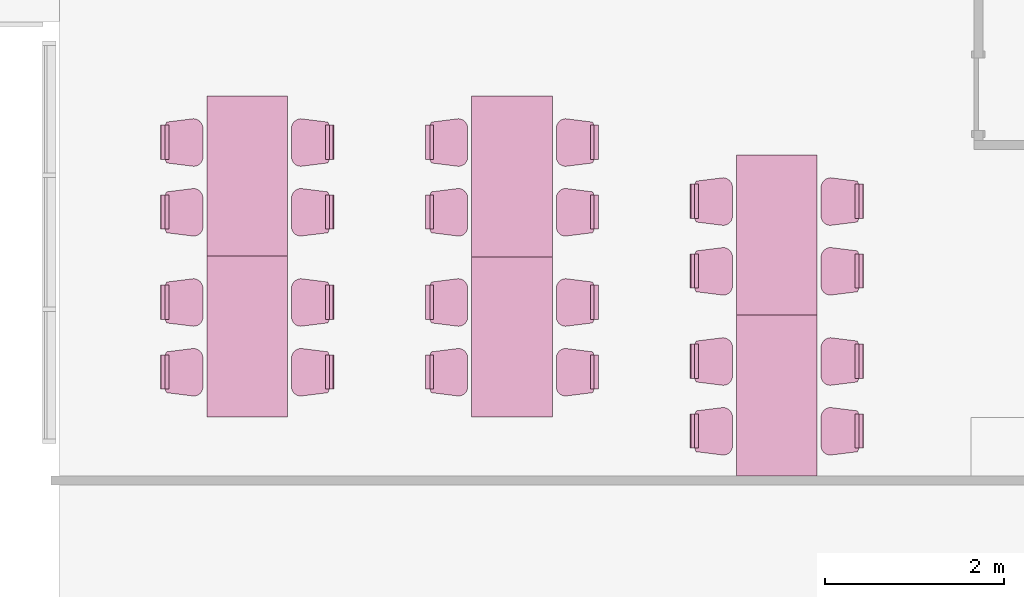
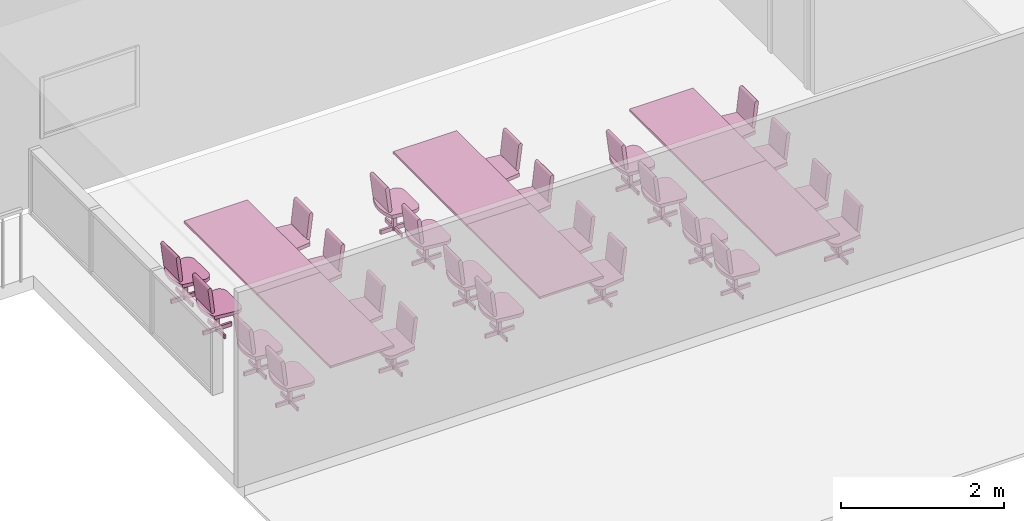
# One storey, part 6 of 6: 30 furnishings.
"""IFC2X3 building model written with IfcOpenShell, lengths in millimetres."""

from ifc_helpers import new_model, entity, si_unit, converted_unit, derived_unit, direction, frame, frame_2d, origin, origin_2d_with_axis, place, context, subcontext, project, spatial, polyline, circle_curve, parameter, trimmed, segment, composite_curve, rectangle, outline, extrude, source, transform, mapped, material, material_list, type_object, type_shapes, element, save


model = new_model("IFC2X3")

# Units and contexts
model_context = context("Model", 3, precision=0.01, world=origin(), true_north=direction((4.05803320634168e-15, -1.0)))
body_context = subcontext(model_context, "Body", "Model", "MODEL_VIEW")
ifc_project = project(units=[si_unit("LENGTHUNIT", "METRE", prefix="MILLI"), si_unit("AREAUNIT", "SQUARE_METRE"), si_unit("VOLUMEUNIT", "CUBIC_METRE"), converted_unit("PLANEANGLEUNIT", "DEGREE", entity("IfcRatioMeasure", 0.0174532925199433), si_unit("PLANEANGLEUNIT", "RADIAN"), dimensions=[0, 0, 0, 0, 0, 0, 0]), si_unit("MASSUNIT", "GRAM", prefix="KILO"), derived_unit("MASSDENSITYUNIT", [(si_unit("MASSUNIT", "GRAM", prefix="KILO"), 1), (si_unit("LENGTHUNIT", "METRE"), -3)]), si_unit("TIMEUNIT", "SECOND"), si_unit("FREQUENCYUNIT", "HERTZ"), si_unit("THERMODYNAMICTEMPERATUREUNIT", "DEGREE_CELSIUS"), derived_unit("THERMALTRANSMITTANCEUNIT", [(si_unit("MASSUNIT", "GRAM", prefix="KILO"), 1), (si_unit("THERMODYNAMICTEMPERATUREUNIT", "KELVIN"), -1), (si_unit("TIMEUNIT", "SECOND"), -3)]), derived_unit("VOLUMETRICFLOWRATEUNIT", [(si_unit("LENGTHUNIT", "METRE"), 3), (si_unit("TIMEUNIT", "SECOND"), -1)]), si_unit("ELECTRICCURRENTUNIT", "AMPERE"), si_unit("ELECTRICVOLTAGEUNIT", "VOLT"), si_unit("POWERUNIT", "WATT"), si_unit("FORCEUNIT", "NEWTON", prefix="KILO"), si_unit("ILLUMINANCEUNIT", "LUX"), si_unit("LUMINOUSFLUXUNIT", "LUMEN"), si_unit("LUMINOUSINTENSITYUNIT", "CANDELA"), derived_unit("USERDEFINED", [(si_unit("MASSUNIT", "GRAM", prefix="KILO"), -1), (si_unit("LENGTHUNIT", "METRE"), -2), (si_unit("TIMEUNIT", "SECOND"), 3), (si_unit("LUMINOUSFLUXUNIT", "LUMEN"), 1)]), derived_unit("LINEARVELOCITYUNIT", [(si_unit("LENGTHUNIT", "METRE"), 1), (si_unit("TIMEUNIT", "SECOND"), -1)]), si_unit("PRESSUREUNIT", "PASCAL"), derived_unit("USERDEFINED", [(si_unit("LENGTHUNIT", "METRE"), -2), (si_unit("MASSUNIT", "GRAM", prefix="KILO"), 1), (si_unit("TIMEUNIT", "SECOND"), -2)])], contexts=[model_context])

# Site, building, storey
site_placement = place(None, frame((927466.849349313, 583801.882853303, 0.0), z_axis=(0.0, 0.0, 1.0), x_axis=(-1.0, 0.0, 0.0)))
site = spatial("IfcSite", under=ifc_project, at=site_placement, Name="Surface", CompositionType="ELEMENT")
building_placement = place(site_placement, origin())
building = spatial("IfcBuilding", under=site, at=building_placement, CompositionType="ELEMENT")
storey_placement = place(building_placement, frame((0.0, 0.0, 51027.1066036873)))
storey = spatial("IfcBuildingStorey", under=building, at=storey_placement, Name="2nd floor", CompositionType="ELEMENT", Elevation=51027.1066036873)

# Furnishings
ifc_material_1 = material(Name="Paint - White")
furniture_type_1 = type_object("IfcFurnitureType", Name="Desk 900x1800", AssemblyPlace="NOTDEFINED", material=ifc_material_1)
shared_shape_1 = source(origin(), body_context, "Body", "SweptSolid", [
    extrude(rectangle(XDim=1800.0, YDim=900.0, at=origin_2d_with_axis()), frame((0.0, 450.0, 718.0)), (0.0, 0.0, 1.0), 32.0),
])
type_shapes(furniture_type_1, [shared_shape_1])
for number, where, z_axis, x_axis, name in (
    (1, (-89366.0817686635, 17471.2743332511, 0.0), (0.0, 0.0, 1.0), (0.0, -1.0, 0.0), "Desk 900x1800:Desk 900x1800"),
    (2, (-89366.0817686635, 15683.2807638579, 0.0), (0.0, 0.0, 1.0), (0.0, -1.0, 0.0), "Desk 900x1800:Desk 900x1800"),
    (3, (-86406.0817686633, 16811.2743332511, 0.0), (0.0, 0.0, 1.0), (0.0, -1.0, 0.0), "Desk 900x1800:Desk 900x1800"),
    (4, (-86406.0817686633, 15023.2807638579, 0.0), (0.0, 0.0, 1.0), (0.0, -1.0, 0.0), "Desk 900x1800:Desk 900x1800"),
    (5, (-83446.0817686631, 16811.2743332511, 0.0), (0.0, 0.0, 1.0), (0.0, -1.0, 0.0), "Desk 900x1800:Desk 900x1800"),
    (6, (-83446.0817686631, 15023.2807638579, 0.0), (0.0, 0.0, 1.0), (0.0, -1.0, 0.0), "Desk 900x1800:Desk 900x1800"),
):
    element("IfcFurnishingElement", number, at=place(storey_placement, frame(where, z_axis=z_axis, x_axis=x_axis)), inside=storey, type_object=furniture_type_1, material=ifc_material_1, Name=name, ObjectType="Desk 900x1800", context=body_context, shape_type="MappedRepresentation", body=[
        mapped(shared_shape_1, transform((0.0, 0.0, 0.0), scale=1.0)),
    ])
ifc_material_2 = material(Name="Metal - Chrome")
ifc_material_3 = material(Name="Textile - Slate Blue")
ifc_material_list_1 = material_list([ifc_material_2, ifc_material_3])
ifc_material_list_2 = material_list([ifc_material_2, ifc_material_3])
furniture_type_2 = type_object("IfcFurnitureType", Name="Desk Chair", AssemblyPlace="NOTDEFINED", material=ifc_material_list_2)
shared_shape_2 = source(origin(), body_context, "Body", "SweptSolid", [
    extrude(rectangle(XDim=30.4799999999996, YDim=186.06811500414, at=origin_2d_with_axis()), frame((-0.923636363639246, 281.917693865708, 0.0)), (0.0, 0.0, 1.0), 58.5040426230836),
    extrude(rectangle(XDim=30.4799999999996, YDim=169.487272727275, at=origin_2d_with_axis()), frame((-0.923636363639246, 51.4927272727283, 0.0), z_axis=(0.0, 0.0, 1.0), x_axis=(-1.0, 0.0, 0.0)), (0.0, 0.0, 1.0), 58.5040426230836),
    extrude(rectangle(XDim=24.9827940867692, YDim=177.8, at=origin_2d_with_axis()), frame((-114.761818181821, 162.537693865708, 0.0), z_axis=(0.0, 0.0, 1.0), x_axis=(0.0, -1.0, 0.0)), (0.0, 0.0, 1.0), 58.5040426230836),
    extrude(rectangle(XDim=177.338181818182, YDim=22.629090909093, at=origin_2d_with_axis()), frame((115.454545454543, 163.714545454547, 0.0), z_axis=(0.0, 0.0, 1.0), x_axis=(-1.0, 0.0, 0.0)), (0.0, 0.0, 1.0), 58.5040426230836),
    extrude(rectangle(XDim=50.7999999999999, YDim=50.8, at=frame_2d((0.0, 1.77635683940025e-14), x_axis=(1.0, 0.0))), frame((0.923636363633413, 164.869090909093, 0.0), z_axis=(0.0, 0.0, 1.0), x_axis=(-1.0, 0.0, 0.0)), (0.0, 0.0, 1.0), 355.6),
    extrude(outline(composite_curve([segment(trimmed(circle_curve(frame_2d((-20.2484072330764, 168.005962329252), x_axis=(1.0, 0.0)), 26.7884929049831), [parameter(359.999999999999)], [parameter(179.999999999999)], True, "PARAMETER"), True, "CONTINUOUS"), segment(polyline([(-47.0369001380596, 168.005962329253), (-5.22778910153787, -168.005962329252)]), True, "CONTINUOUS"), segment(trimmed(circle_curve(frame_2d((20.2484072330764, -168.005962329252), x_axis=(1.0, 0.0)), 25.4761963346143), [parameter(180.0)], [parameter(359.999999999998)], True, "PARAMETER"), True, "CONTINUOUS"), segment(polyline([(45.7246035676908, -168.005962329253), (6.54008567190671, 168.005962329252)]), True, "CONTINUOUS")], self_intersect=False)), frame((-194.36430563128, -20.1722108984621, 619.394037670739), z_axis=(1.0, 0.0, 0.0), x_axis=(0.0, 1.0, 0.0)), (0.0, 0.0, 1.0), 383.27680563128),
    extrude(outline(composite_curve([segment(polyline([(-98.8964113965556, -257.738474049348), (205.903588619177, -257.738474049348)]), True, "CONTINUOUS"), segment(trimmed(circle_curve(frame_2d((-209.185203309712, 24.5266400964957), x_axis=(0.124034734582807, 0.992277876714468)), 501.968425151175), [parameter(242.908867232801)], [parameter(297.091132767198)], True, "PARAMETER"), True, "CONTINUOUS"), segment(polyline([(262.612269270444, 195.930971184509), (-32.8339614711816, 270.761125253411)]), True, "CONTINUOUS"), segment(trimmed(circle_curve(frame_2d((-45.7278314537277, 167.610165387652), x_axis=(0.124034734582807, 0.992277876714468)), 103.953703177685), [parameter(359.999999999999)], [parameter(89.9999999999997)], True, "PARAMETER"), True, "CONTINUOUS"), segment(polyline([(-148.878791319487, 180.504035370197), (-187.906693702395, -131.719183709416)]), True, "CONTINUOUS"), segment(trimmed(circle_curve(frame_2d((-80.0405815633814, -149.975538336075), x_axis=(0.124034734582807, 0.992277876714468)), 109.400149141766), [parameter(87.5187332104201)], [parameter(177.200155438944)], True, "PARAMETER"), True, "CONTINUOUS")], self_intersect=False)), frame((1.6089888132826, 236.282098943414, 355.6), z_axis=(0.0, 0.0, 1.0), x_axis=(0.124034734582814, -0.992277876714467, 0.0)), (0.0, 0.0, 1.0), 50.8000000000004),
])
type_shapes(furniture_type_2, [shared_shape_2])
furnishing_1_placement = place(storey_placement, frame((-88014.881742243, 17871.2743332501, 0.0), z_axis=(0.0, 0.0, 1.0), x_axis=(0.0, 1.0, 0.0)))
element("IfcFurnishingElement", 7, at=furnishing_1_placement, inside=storey, type_object=furniture_type_2, material=ifc_material_list_1, Name="M_Chair-Desk:Desk Chair", ObjectType="Desk Chair", context=body_context, shape_type="MappedRepresentation", body=[
    mapped(shared_shape_2, transform((0.0, 0.0, 0.0), scale=1.0)),
])
ifc_material_list_3 = material_list([ifc_material_2, ifc_material_3])
furnishing_2_placement = place(storey_placement, frame((-88014.8817422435, 17091.2743332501, 0.0), z_axis=(0.0, 0.0, 1.0), x_axis=(0.0, 1.0, 0.0)))
element("IfcFurnishingElement", 8, at=furnishing_2_placement, inside=storey, type_object=furniture_type_2, material=ifc_material_list_3, Name="M_Chair-Desk:Desk Chair", ObjectType="Desk Chair", context=body_context, shape_type="MappedRepresentation", body=[
    mapped(shared_shape_2, transform((0.0, 0.0, 0.0), scale=1.0)),
])
ifc_material_list_4 = material_list([ifc_material_2, ifc_material_3])
furnishing_3_placement = place(storey_placement, frame((-88014.881742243, 16083.2807638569, 0.0), z_axis=(0.0, 0.0, 1.0), x_axis=(0.0, 1.0, 0.0)))
element("IfcFurnishingElement", 9, at=furnishing_3_placement, inside=storey, type_object=furniture_type_2, material=ifc_material_list_4, Name="M_Chair-Desk:Desk Chair", ObjectType="Desk Chair", context=body_context, shape_type="MappedRepresentation", body=[
    mapped(shared_shape_2, transform((0.0, 0.0, 0.0), scale=1.0)),
])
ifc_material_list_5 = material_list([ifc_material_2, ifc_material_3])
furnishing_4_placement = place(storey_placement, frame((-88014.8817422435, 15303.2807638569, 0.0), z_axis=(0.0, 0.0, 1.0), x_axis=(0.0, 1.0, 0.0)))
element("IfcFurnishingElement", 10, at=furnishing_4_placement, inside=storey, type_object=furniture_type_2, material=ifc_material_list_5, Name="M_Chair-Desk:Desk Chair", ObjectType="Desk Chair", context=body_context, shape_type="MappedRepresentation", body=[
    mapped(shared_shape_2, transform((0.0, 0.0, 0.0), scale=1.0)),
])
ifc_material_list_6 = material_list([ifc_material_2, ifc_material_3])
furnishing_5_placement = place(storey_placement, frame((-85054.8817422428, 17211.2743332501, 0.0), z_axis=(0.0, 0.0, 1.0), x_axis=(0.0, 1.0, 0.0)))
element("IfcFurnishingElement", 11, at=furnishing_5_placement, inside=storey, type_object=furniture_type_2, material=ifc_material_list_6, Name="M_Chair-Desk:Desk Chair", ObjectType="Desk Chair", context=body_context, shape_type="MappedRepresentation", body=[
    mapped(shared_shape_2, transform((0.0, 0.0, 0.0), scale=1.0)),
])
ifc_material_list_7 = material_list([ifc_material_2, ifc_material_3])
furnishing_6_placement = place(storey_placement, frame((-85054.8817422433, 16431.2743332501, 0.0), z_axis=(0.0, 0.0, 1.0), x_axis=(0.0, 1.0, 0.0)))
element("IfcFurnishingElement", 12, at=furnishing_6_placement, inside=storey, type_object=furniture_type_2, material=ifc_material_list_7, Name="M_Chair-Desk:Desk Chair", ObjectType="Desk Chair", context=body_context, shape_type="MappedRepresentation", body=[
    mapped(shared_shape_2, transform((0.0, 0.0, 0.0), scale=1.0)),
])
ifc_material_list_8 = material_list([ifc_material_2, ifc_material_3])
furnishing_7_placement = place(storey_placement, frame((-85054.8817422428, 15423.2807638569, 0.0), z_axis=(0.0, 0.0, 1.0), x_axis=(0.0, 1.0, 0.0)))
element("IfcFurnishingElement", 13, at=furnishing_7_placement, inside=storey, type_object=furniture_type_2, material=ifc_material_list_8, Name="M_Chair-Desk:Desk Chair", ObjectType="Desk Chair", context=body_context, shape_type="MappedRepresentation", body=[
    mapped(shared_shape_2, transform((0.0, 0.0, 0.0), scale=1.0)),
])
ifc_material_list_9 = material_list([ifc_material_2, ifc_material_3])
furnishing_8_placement = place(storey_placement, frame((-85054.8817422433, 14643.2807638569, 0.0), z_axis=(0.0, 0.0, 1.0), x_axis=(0.0, 1.0, 0.0)))
element("IfcFurnishingElement", 14, at=furnishing_8_placement, inside=storey, type_object=furniture_type_2, material=ifc_material_list_9, Name="M_Chair-Desk:Desk Chair", ObjectType="Desk Chair", context=body_context, shape_type="MappedRepresentation", body=[
    mapped(shared_shape_2, transform((0.0, 0.0, 0.0), scale=1.0)),
])
ifc_material_list_10 = material_list([ifc_material_2, ifc_material_3])
furnishing_9_placement = place(storey_placement, frame((-82094.8817422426, 17211.2743332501, 0.0), z_axis=(0.0, 0.0, 1.0), x_axis=(0.0, 1.0, 0.0)))
element("IfcFurnishingElement", 15, at=furnishing_9_placement, inside=storey, type_object=furniture_type_2, material=ifc_material_list_10, Name="M_Chair-Desk:Desk Chair", ObjectType="Desk Chair", context=body_context, shape_type="MappedRepresentation", body=[
    mapped(shared_shape_2, transform((0.0, 0.0, 0.0), scale=1.0)),
])
ifc_material_list_11 = material_list([ifc_material_2, ifc_material_3])
furnishing_10_placement = place(storey_placement, frame((-82094.8817422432, 16431.2743332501, 0.0), z_axis=(0.0, 0.0, 1.0), x_axis=(0.0, 1.0, 0.0)))
element("IfcFurnishingElement", 16, at=furnishing_10_placement, inside=storey, type_object=furniture_type_2, material=ifc_material_list_11, Name="M_Chair-Desk:Desk Chair", ObjectType="Desk Chair", context=body_context, shape_type="MappedRepresentation", body=[
    mapped(shared_shape_2, transform((0.0, 0.0, 0.0), scale=1.0)),
])
ifc_material_list_12 = material_list([ifc_material_2, ifc_material_3])
furnishing_11_placement = place(storey_placement, frame((-82094.8817422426, 15423.2807638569, 0.0), z_axis=(0.0, 0.0, 1.0), x_axis=(0.0, 1.0, 0.0)))
element("IfcFurnishingElement", 17, at=furnishing_11_placement, inside=storey, type_object=furniture_type_2, material=ifc_material_list_12, Name="M_Chair-Desk:Desk Chair", ObjectType="Desk Chair", context=body_context, shape_type="MappedRepresentation", body=[
    mapped(shared_shape_2, transform((0.0, 0.0, 0.0), scale=1.0)),
])
ifc_material_list_13 = material_list([ifc_material_2, ifc_material_3])
furnishing_12_placement = place(storey_placement, frame((-82094.8817422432, 14643.2807638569, 0.0), z_axis=(0.0, 0.0, 1.0), x_axis=(0.0, 1.0, 0.0)))
element("IfcFurnishingElement", 18, at=furnishing_12_placement, inside=storey, type_object=furniture_type_2, material=ifc_material_list_13, Name="M_Chair-Desk:Desk Chair", ObjectType="Desk Chair", context=body_context, shape_type="MappedRepresentation", body=[
    mapped(shared_shape_2, transform((0.0, 0.0, 0.0), scale=1.0)),
])
ifc_material_list_14 = material_list([ifc_material_2, ifc_material_3])
ifc_material_list_15 = material_list([ifc_material_2, ifc_material_3])
furniture_type_3 = type_object("IfcFurnitureType", Name="Desk Chair", AssemblyPlace="NOTDEFINED", material=ifc_material_list_15)
shared_shape_3 = source(origin(), body_context, "Body", "SweptSolid", [
    extrude(rectangle(XDim=186.06811500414, YDim=30.4799999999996, at=origin_2d_with_axis()), frame((-0.923636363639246, -281.917693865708, 0.0), z_axis=(0.0, 0.0, 1.0), x_axis=(0.0, -1.0, 0.0)), (0.0, 0.0, 1.0), 58.5040426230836),
    extrude(rectangle(XDim=169.487272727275, YDim=30.4799999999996, at=origin_2d_with_axis()), frame((-0.923636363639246, -51.4927272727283, 0.0), z_axis=(0.0, 0.0, 1.0), x_axis=(0.0, 1.0, 0.0)), (0.0, 0.0, 1.0), 58.5040426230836),
    extrude(rectangle(XDim=177.8, YDim=24.9827940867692, at=origin_2d_with_axis()), frame((-114.761818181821, -162.537693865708, 0.0)), (0.0, 0.0, 1.0), 58.5040426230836),
    extrude(rectangle(XDim=22.629090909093, YDim=177.338181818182, at=origin_2d_with_axis()), frame((115.454545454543, -163.714545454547, 0.0), z_axis=(0.0, 0.0, 1.0), x_axis=(0.0, 1.0, 0.0)), (0.0, 0.0, 1.0), 58.5040426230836),
    extrude(rectangle(XDim=50.8, YDim=50.7999999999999, at=frame_2d((1.77635683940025e-14, 0.0), x_axis=(1.0, 0.0))), frame((0.923636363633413, -164.869090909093, 0.0), z_axis=(0.0, 0.0, 1.0), x_axis=(0.0, 1.0, 0.0)), (0.0, 0.0, 1.0), 355.6),
    extrude(outline(composite_curve([segment(polyline([(-166.117545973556, -25.956444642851), (172.171442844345, -25.956444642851)]), True, "CONTINUOUS"), segment(trimmed(circle_curve(frame_2d((169.220497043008, -0.65173167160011), x_axis=(0.115831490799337, -0.993268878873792)), 25.4761963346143), [parameter(1.67933287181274e-12)], [parameter(180.0)], True, "PARAMETER"), True, "CONTINUOUS"), segment(polyline([(166.269551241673, 24.6529812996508), (-172.323448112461, 27.2599079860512)]), True, "CONTINUOUS"), segment(trimmed(circle_curve(frame_2d((-169.220497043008, 0.651731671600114), x_axis=(0.115831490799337, -0.993268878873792)), 26.7884929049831), [parameter(180.000000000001)], [parameter(5.5977762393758e-13)], True, "PARAMETER"), True, "CONTINUOUS")], self_intersect=False)), frame((-194.36430563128, 20.1722108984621, 619.394037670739), z_axis=(1.0, 0.0, 0.0), x_axis=(0.0, -0.115831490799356, -0.993268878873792)), (0.0, 0.0, 1.0), 383.27680563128),
    extrude(outline(composite_curve([segment(trimmed(circle_curve(frame_2d((-158.745221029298, -60.8203222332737), x_axis=(1.0, 0.0)), 109.400149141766), [parameter(182.799844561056)], [parameter(272.48126678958)], True, "PARAMETER"), True, "CONTINUOUS"), segment(polyline([(-154.008988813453, -170.117901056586), (160.644019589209, -170.117901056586)]), True, "CONTINUOUS"), segment(trimmed(circle_curve(frame_2d((160.644019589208, -66.164197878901), x_axis=(1.0, 0.0)), 103.953703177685), [parameter(270.0)], [parameter(1.06866637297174e-12)], True, "PARAMETER"), True, "CONTINUOUS"), segment(polyline([(264.597722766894, -66.1641978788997), (226.991011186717, 236.28209894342)]), True, "CONTINUOUS"), segment(trimmed(circle_curve(frame_2d((-1.6089888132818, -210.612004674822), x_axis=(1.0, 0.0)), 501.968425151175), [parameter(62.9088672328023)], [parameter(117.091132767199)], True, "PARAMETER"), True, "CONTINUOUS"), segment(polyline([(-230.208988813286, 236.282098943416), (-268.014775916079, -66.1641978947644)]), True, "CONTINUOUS")], self_intersect=False)), frame((1.60898881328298, -236.282098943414, 355.6)), (0.0, 0.0, 1.0), 50.8000000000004),
])
type_shapes(furniture_type_3, [shared_shape_3])
furnishing_13_placement = place(storey_placement, frame((-89817.2817950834, 17871.2743332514, 0.0), z_axis=(0.0, 0.0, 1.0), x_axis=(0.0, 1.0, 0.0)))
element("IfcFurnishingElement", 19, at=furnishing_13_placement, inside=storey, type_object=furniture_type_3, material=ifc_material_list_14, Name="M_Chair-Desk:Desk Chair", ObjectType="Desk Chair", context=body_context, shape_type="MappedRepresentation", body=[
    mapped(shared_shape_3, transform((0.0, 0.0, 0.0), scale=1.0)),
])
ifc_material_list_16 = material_list([ifc_material_2, ifc_material_3])
furnishing_14_placement = place(storey_placement, frame((-89817.281795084, 17091.2743332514, 0.0), z_axis=(0.0, 0.0, 1.0), x_axis=(0.0, 1.0, 0.0)))
element("IfcFurnishingElement", 20, at=furnishing_14_placement, inside=storey, type_object=furniture_type_3, material=ifc_material_list_16, Name="M_Chair-Desk:Desk Chair", ObjectType="Desk Chair", context=body_context, shape_type="MappedRepresentation", body=[
    mapped(shared_shape_3, transform((0.0, 0.0, 0.0), scale=1.0)),
])
ifc_material_list_17 = material_list([ifc_material_2, ifc_material_3])
furnishing_15_placement = place(storey_placement, frame((-89817.2817950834, 16083.2807638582, 0.0), z_axis=(0.0, 0.0, 1.0), x_axis=(0.0, 1.0, 0.0)))
element("IfcFurnishingElement", 21, at=furnishing_15_placement, inside=storey, type_object=furniture_type_3, material=ifc_material_list_17, Name="M_Chair-Desk:Desk Chair", ObjectType="Desk Chair", context=body_context, shape_type="MappedRepresentation", body=[
    mapped(shared_shape_3, transform((0.0, 0.0, 0.0), scale=1.0)),
])
ifc_material_list_18 = material_list([ifc_material_2, ifc_material_3])
furnishing_16_placement = place(storey_placement, frame((-89817.281795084, 15303.2807638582, 0.0), z_axis=(0.0, 0.0, 1.0), x_axis=(0.0, 1.0, 0.0)))
element("IfcFurnishingElement", 22, at=furnishing_16_placement, inside=storey, type_object=furniture_type_3, material=ifc_material_list_18, Name="M_Chair-Desk:Desk Chair", ObjectType="Desk Chair", context=body_context, shape_type="MappedRepresentation", body=[
    mapped(shared_shape_3, transform((0.0, 0.0, 0.0), scale=1.0)),
])
ifc_material_list_19 = material_list([ifc_material_2, ifc_material_3])
furnishing_17_placement = place(storey_placement, frame((-86857.2817950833, 17211.2743332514, 0.0), z_axis=(0.0, 0.0, 1.0), x_axis=(0.0, 1.0, 0.0)))
element("IfcFurnishingElement", 23, at=furnishing_17_placement, inside=storey, type_object=furniture_type_3, material=ifc_material_list_19, Name="M_Chair-Desk:Desk Chair", ObjectType="Desk Chair", context=body_context, shape_type="MappedRepresentation", body=[
    mapped(shared_shape_3, transform((0.0, 0.0, 0.0), scale=1.0)),
])
ifc_material_list_20 = material_list([ifc_material_2, ifc_material_3])
furnishing_18_placement = place(storey_placement, frame((-86857.2817950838, 16431.2743332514, 0.0), z_axis=(0.0, 0.0, 1.0), x_axis=(0.0, 1.0, 0.0)))
element("IfcFurnishingElement", 24, at=furnishing_18_placement, inside=storey, type_object=furniture_type_3, material=ifc_material_list_20, Name="M_Chair-Desk:Desk Chair", ObjectType="Desk Chair", context=body_context, shape_type="MappedRepresentation", body=[
    mapped(shared_shape_3, transform((0.0, 0.0, 0.0), scale=1.0)),
])
ifc_material_list_21 = material_list([ifc_material_2, ifc_material_3])
furnishing_19_placement = place(storey_placement, frame((-86857.2817950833, 15423.2807638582, 0.0), z_axis=(0.0, 0.0, 1.0), x_axis=(0.0, 1.0, 0.0)))
element("IfcFurnishingElement", 25, at=furnishing_19_placement, inside=storey, type_object=furniture_type_3, material=ifc_material_list_21, Name="M_Chair-Desk:Desk Chair", ObjectType="Desk Chair", context=body_context, shape_type="MappedRepresentation", body=[
    mapped(shared_shape_3, transform((0.0, 0.0, 0.0), scale=1.0)),
])
ifc_material_list_22 = material_list([ifc_material_2, ifc_material_3])
furnishing_20_placement = place(storey_placement, frame((-86857.2817950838, 14643.2807638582, 0.0), z_axis=(0.0, 0.0, 1.0), x_axis=(0.0, 1.0, 0.0)))
element("IfcFurnishingElement", 26, at=furnishing_20_placement, inside=storey, type_object=furniture_type_3, material=ifc_material_list_22, Name="M_Chair-Desk:Desk Chair", ObjectType="Desk Chair", context=body_context, shape_type="MappedRepresentation", body=[
    mapped(shared_shape_3, transform((0.0, 0.0, 0.0), scale=1.0)),
])
ifc_material_list_23 = material_list([ifc_material_2, ifc_material_3])
furnishing_21_placement = place(storey_placement, frame((-83897.2817950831, 17211.2743332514, 0.0), z_axis=(0.0, 0.0, 1.0), x_axis=(0.0, 1.0, 0.0)))
element("IfcFurnishingElement", 27, at=furnishing_21_placement, inside=storey, type_object=furniture_type_3, material=ifc_material_list_23, Name="M_Chair-Desk:Desk Chair", ObjectType="Desk Chair", context=body_context, shape_type="MappedRepresentation", body=[
    mapped(shared_shape_3, transform((0.0, 0.0, 0.0), scale=1.0)),
])
ifc_material_list_24 = material_list([ifc_material_2, ifc_material_3])
furnishing_22_placement = place(storey_placement, frame((-83897.2817950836, 16431.2743332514, 0.0), z_axis=(0.0, 0.0, 1.0), x_axis=(0.0, 1.0, 0.0)))
element("IfcFurnishingElement", 28, at=furnishing_22_placement, inside=storey, type_object=furniture_type_3, material=ifc_material_list_24, Name="M_Chair-Desk:Desk Chair", ObjectType="Desk Chair", context=body_context, shape_type="MappedRepresentation", body=[
    mapped(shared_shape_3, transform((0.0, 0.0, 0.0), scale=1.0)),
])
ifc_material_list_25 = material_list([ifc_material_2, ifc_material_3])
furnishing_23_placement = place(storey_placement, frame((-83897.2817950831, 15423.2807638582, 0.0), z_axis=(0.0, 0.0, 1.0), x_axis=(0.0, 1.0, 0.0)))
element("IfcFurnishingElement", 29, at=furnishing_23_placement, inside=storey, type_object=furniture_type_3, material=ifc_material_list_25, Name="M_Chair-Desk:Desk Chair", ObjectType="Desk Chair", context=body_context, shape_type="MappedRepresentation", body=[
    mapped(shared_shape_3, transform((0.0, 0.0, 0.0), scale=1.0)),
])
ifc_material_list_26 = material_list([ifc_material_2, ifc_material_3])
furnishing_24_placement = place(storey_placement, frame((-83897.2817950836, 14643.2807638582, 0.0), z_axis=(0.0, 0.0, 1.0), x_axis=(0.0, 1.0, 0.0)))
element("IfcFurnishingElement", 30, at=furnishing_24_placement, inside=storey, type_object=furniture_type_3, material=ifc_material_list_26, Name="M_Chair-Desk:Desk Chair", ObjectType="Desk Chair", context=body_context, shape_type="MappedRepresentation", body=[
    mapped(shared_shape_3, transform((0.0, 0.0, 0.0), scale=1.0)),
])

save(model, "model.ifc")
